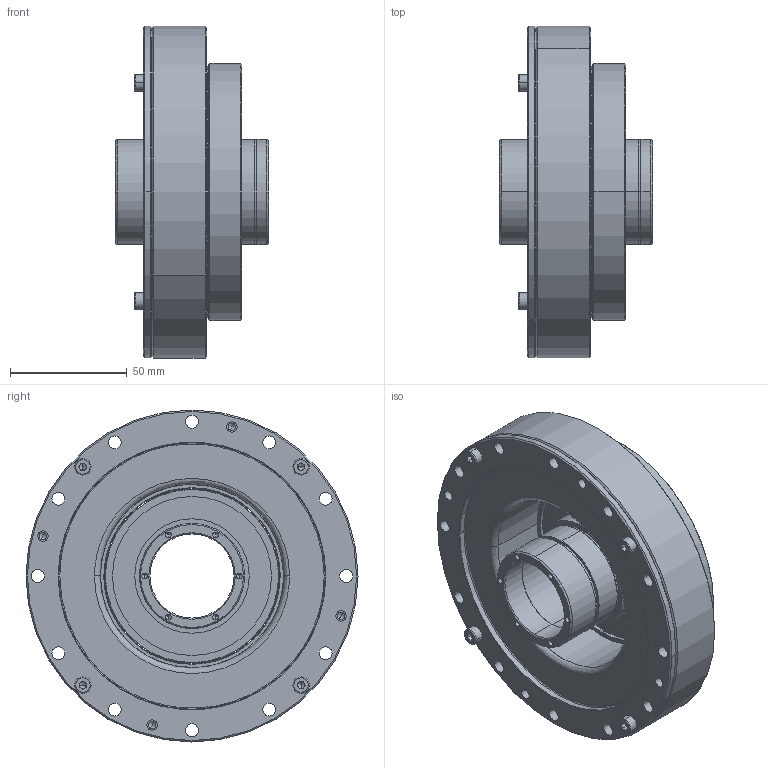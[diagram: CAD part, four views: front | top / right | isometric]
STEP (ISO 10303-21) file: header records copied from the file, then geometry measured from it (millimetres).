
FILE_DESCRIPTION (( 'STEP AP203' ), '1' );
FILE_NAME ('LHS-32-XXX-C-III-ST.step', '2025-01-07T06:45:32', ( '' ), ( '' ), 'SwSTEP 2.0', 'SolidWorks 2023', '' );
FILE_SCHEMA (( 'CONFIG_CONTROL_DESIGN' ));
Length unit declared in the file: metre
Products named in the file (1): LHS-32-XXX-C-III-ST
Bounding box: 65.5 x 142 x 142 mm (x, y, z)
Volume: 338246.1 mm3; surface area: 191093.6 mm2
Topology: 41 solids, 41 shells, 869 faces, 2135 edges, 1256 vertices
Faces by surface type: cylinder 381, plane 220, cone 148, bspline 120
Entity records: 28857 total; most frequent: CARTESIAN_POINT 8679, DIRECTION 4523, ORIENTED_EDGE 3918, EDGE_CURVE 1959, AXIS2_PLACEMENT_3D 1878, VERTEX_POINT 1256, CIRCLE 1128, EDGE_LOOP 1085
